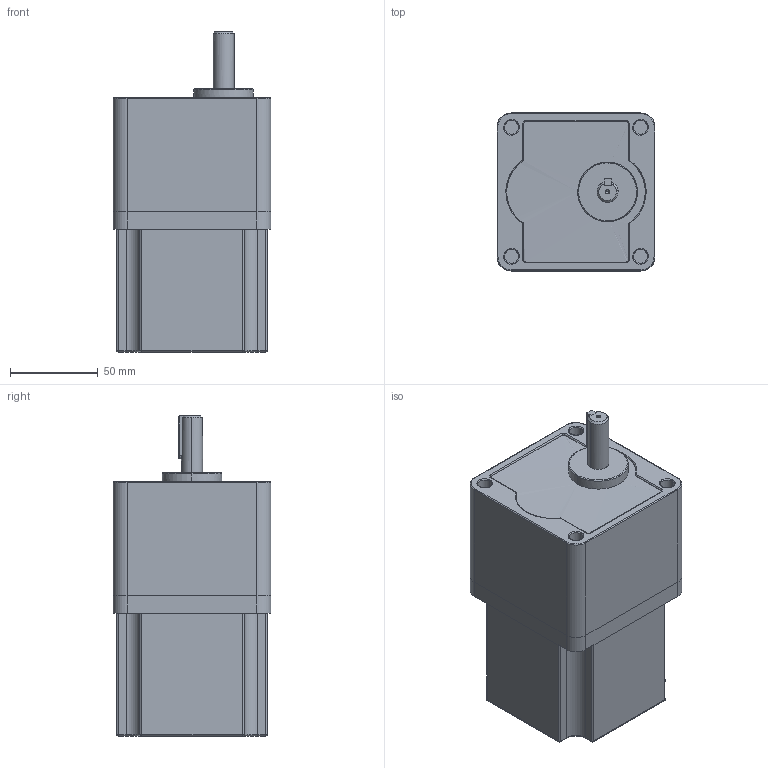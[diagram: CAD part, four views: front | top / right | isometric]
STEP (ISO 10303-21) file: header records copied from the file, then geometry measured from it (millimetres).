
FILE_DESCRIPTION (( 'STEP AP203' ), '1' );
FILE_NAME ('TM3401GU40A+5GU（L12）.STEP', '2026-07-20T03:09:12', ( 'user' ), ( '微软中国' ), 'SwSTEP 2.0', 'SolidWorks 2014', '' );
FILE_SCHEMA (( 'CONFIG_CONTROL_DESIGN' ));
Length unit declared in the file: millimetre
Products named in the file (1): TM3401GU40A+5GU（L12）
Bounding box: 90 x 90 x 182.5 mm (x, y, z)
Surface area: 111458 mm2 (no closed solid volume)
Topology: 0 solids, 5 shells, 141 faces, 344 edges, 202 vertices
Faces by surface type: cylinder 70, plane 36, bspline 18, sphere 8, cone 5, torus 4
Entity records: 5755 total; most frequent: CARTESIAN_POINT 2592, DIRECTION 636, ORIENTED_EDGE 635, EDGE_CURVE 334, AXIS2_PLACEMENT_3D 245, VERTEX_POINT 202, EDGE_LOOP 149, VECTOR 146
